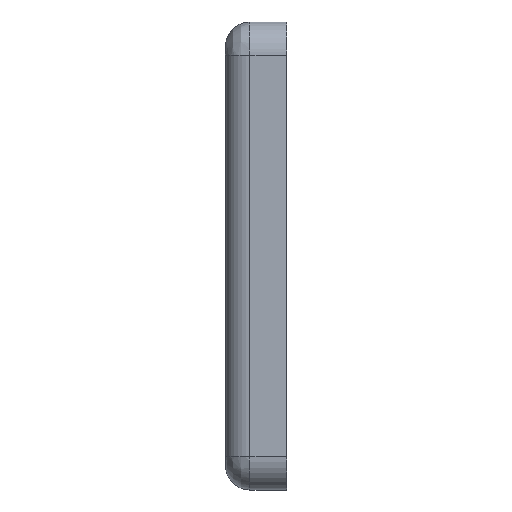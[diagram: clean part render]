
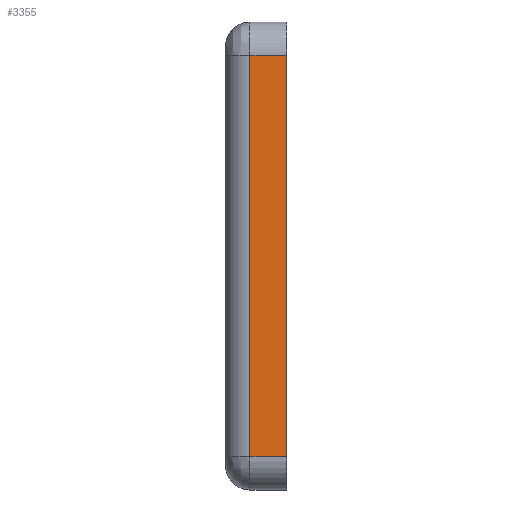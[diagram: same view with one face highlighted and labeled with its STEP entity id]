
A CAD part, left-side view. The second image highlights one B-rep face of the part: STEP entity #3355.
In plain terms, the highlighted planar face has unit normal (-1, 0, 0).
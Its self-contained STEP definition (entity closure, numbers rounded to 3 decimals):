
#2980 = VECTOR ( 'NONE', #24090, 39.37 ) ;
#3355 = ADVANCED_FACE ( 'NONE', ( #54007 ), #52161, .T. ) ;
#3626 = VECTOR ( 'NONE', #81223, 39.37 ) ;
#4990 = EDGE_CURVE ( 'NONE', #16820, #34054, #69366, .T. ) ;
#9446 = CARTESIAN_POINT ( 'NONE',  ( -15.08, 0.1, 8.213 ) ) ;
#10116 = VECTOR ( 'NONE', #43822, 39.37 ) ;
#15134 = LINE ( 'NONE', #9446, #50036 ) ;
#16820 = VERTEX_POINT ( 'NONE', #54535 ) ;
#21820 = CARTESIAN_POINT ( 'NONE',  ( -15.08, 0., -8.213 ) ) ;
#24090 = DIRECTION ( 'NONE',  ( 0., -1., 0. ) ) ;
#28454 = CARTESIAN_POINT ( 'NONE',  ( -15.08, 1.5, 8.213 ) ) ;
#34054 = VERTEX_POINT ( 'NONE', #21820 ) ;
#38880 = LINE ( 'NONE', #83171, #10116 ) ;
#43822 = DIRECTION ( 'NONE',  ( 0., 0., -1. ) ) ;
#49118 = ORIENTED_EDGE ( 'NONE', *, *, #70384, .F. ) ;
#49191 = ORIENTED_EDGE ( 'NONE', *, *, #51878, .T. ) ;
#50036 = VECTOR ( 'NONE', #55324, 39.37 ) ;
#50164 = DIRECTION ( 'NONE',  ( 0., 0., 1. ) ) ;
#50234 = EDGE_CURVE ( 'NONE', #64587, #34054, #68729, .T. ) ;
#50444 = DIRECTION ( 'NONE',  ( -1., 0., 0. ) ) ;
#51621 = CARTESIAN_POINT ( 'NONE',  ( -15.08, 0.1, -8.213 ) ) ;
#51878 = EDGE_CURVE ( 'NONE', #83118, #64587, #38880, .T. ) ;
#52161 = PLANE ( 'NONE',  #55222 ) ;
#52182 = ORIENTED_EDGE ( 'NONE', *, *, #50234, .T. ) ;
#52265 = ORIENTED_EDGE ( 'NONE', *, *, #4990, .F. ) ;
#54007 = FACE_OUTER_BOUND ( 'NONE', #56631, .T. ) ;
#54535 = CARTESIAN_POINT ( 'NONE',  ( -15.08, 0., 8.213 ) ) ;
#54557 = CARTESIAN_POINT ( 'NONE',  ( -15.08, 1.5, -8.213 ) ) ;
#55222 = AXIS2_PLACEMENT_3D ( 'NONE', #57607, #50444, #50164 ) ;
#55324 = DIRECTION ( 'NONE',  ( 0., -1., 0. ) ) ;
#56631 = EDGE_LOOP ( 'NONE', ( #49118, #49191, #52182, #52265 ) ) ;
#57607 = CARTESIAN_POINT ( 'NONE',  ( -15.08, 0.1, 8.213 ) ) ;
#64587 = VERTEX_POINT ( 'NONE', #54557 ) ;
#68729 = LINE ( 'NONE', #51621, #2980 ) ;
#69366 = LINE ( 'NONE', #82334, #3626 ) ;
#70384 = EDGE_CURVE ( 'NONE', #83118, #16820, #15134, .T. ) ;
#81223 = DIRECTION ( 'NONE',  ( 0., 0., -1. ) ) ;
#82334 = CARTESIAN_POINT ( 'NONE',  ( -15.08, 0., 8.213 ) ) ;
#83118 = VERTEX_POINT ( 'NONE', #28454 ) ;
#83171 = CARTESIAN_POINT ( 'NONE',  ( -15.08, 1.5, 8.213 ) ) ;
